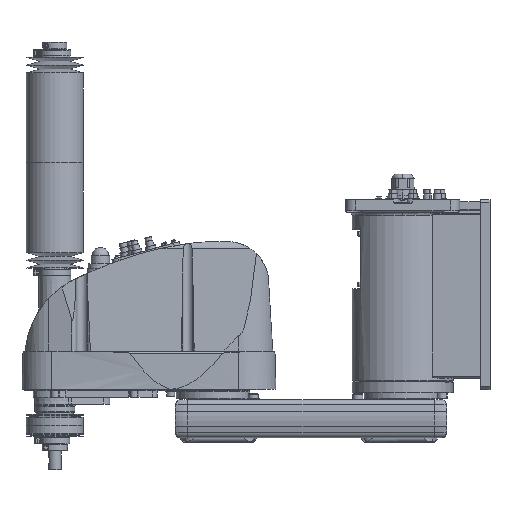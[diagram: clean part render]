
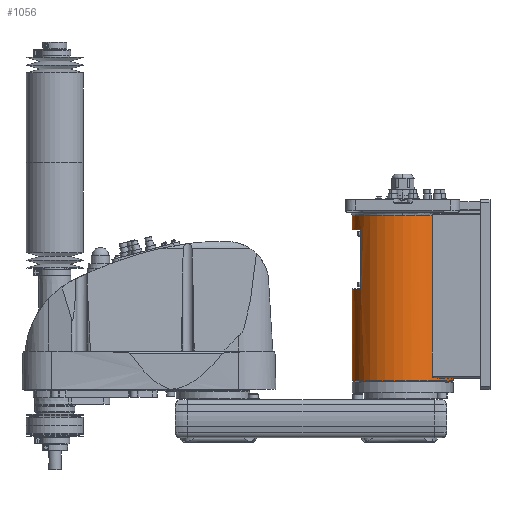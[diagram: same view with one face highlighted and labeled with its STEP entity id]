
A CAD part, top view. The second image highlights one B-rep face of the part: STEP entity #1056.
In plain terms, the highlighted cylindrical face has radius 80 mm (diameter 160 mm), a partial arc.
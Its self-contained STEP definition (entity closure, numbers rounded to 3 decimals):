
#1056 = ADVANCED_FACE( '', ( #3644 ), #3645, .T. );
#3644 = FACE_OUTER_BOUND( '', #7591, .T. );
#3645 = CYLINDRICAL_SURFACE( '', #7592, 80. );
#7591 = EDGE_LOOP( '', ( #15244, #15245, #15246, #15247, #15248, #15249, #15250, #15251, #15252, #15253, #15254, #15255 ) );
#7592 = AXIS2_PLACEMENT_3D( '', #15256, #15257, #15258 );
#15244 = ORIENTED_EDGE( '', *, *, #24562, .T. );
#15245 = ORIENTED_EDGE( '', *, *, #26037, .T. );
#15246 = ORIENTED_EDGE( '', *, *, #26034, .T. );
#15247 = ORIENTED_EDGE( '', *, *, #26031, .T. );
#15248 = ORIENTED_EDGE( '', *, *, #24613, .F. );
#15249 = ORIENTED_EDGE( '', *, *, #24619, .F. );
#15250 = ORIENTED_EDGE( '', *, *, #24568, .T. );
#15251 = ORIENTED_EDGE( '', *, *, #25849, .T. );
#15252 = ORIENTED_EDGE( '', *, *, #25851, .T. );
#15253 = ORIENTED_EDGE( '', *, *, #25852, .T. );
#15254 = ORIENTED_EDGE( '', *, *, #24564, .T. );
#15255 = ORIENTED_EDGE( '', *, *, #26152, .T. );
#15256 = CARTESIAN_POINT( '', ( 0., 160.75, 0. ) );
#15257 = DIRECTION( '', ( 0., -1., 0. ) );
#15258 = DIRECTION( '', ( 1., 0., 0. ) );
#24562 = EDGE_CURVE( '', #29024, #29025, #29026, .T. );
#24564 = EDGE_CURVE( '', #29029, #29027, #29030, .T. );
#24568 = EDGE_CURVE( '', #29037, #29035, #29038, .T. );
#24613 = EDGE_CURVE( '', #29123, #29125, #29126, .T. );
#24619 = EDGE_CURVE( '', #29037, #29123, #29136, .T. );
#25849 = EDGE_CURVE( '', #29035, #31171, #31173, .T. );
#25851 = EDGE_CURVE( '', #31171, #31174, #31176, .T. );
#25852 = EDGE_CURVE( '', #31174, #29029, #31177, .T. );
#26031 = EDGE_CURVE( '', #31462, #29125, #31463, .T. );
#26034 = EDGE_CURVE( '', #31466, #31462, #31467, .T. );
#26037 = EDGE_CURVE( '', #29025, #31466, #31470, .T. );
#26152 = EDGE_CURVE( '', #29027, #29024, #31644, .T. );
#29024 = VERTEX_POINT( '', #36356 );
#29025 = VERTEX_POINT( '', #36357 );
#29026 = LINE( '', #36358, #36359 );
#29027 = VERTEX_POINT( '', #36360 );
#29029 = VERTEX_POINT( '', #36362 );
#29030 = LINE( '', #36363, #36364 );
#29035 = VERTEX_POINT( '', #36370 );
#29037 = VERTEX_POINT( '', #36372 );
#29038 = LINE( '', #36373, #36374 );
#29123 = VERTEX_POINT( '', #36495 );
#29125 = VERTEX_POINT( '', #36497 );
#29126 = CIRCLE( '', #36498, 80. );
#29136 = CIRCLE( '', #36545, 80. );
#31171 = VERTEX_POINT( '', #39404 );
#31173 = CIRCLE( '', #39407, 80. );
#31174 = VERTEX_POINT( '', #39408 );
#31176 = LINE( '', #39411, #39412 );
#31177 = CIRCLE( '', #39413, 80. );
#31462 = VERTEX_POINT( '', #39891 );
#31463 = LINE( '', #39892, #39893 );
#31466 = VERTEX_POINT( '', #39898 );
#31467 = B_SPLINE_CURVE_WITH_KNOTS( '', 3, ( #39899, #39900, #39901, #39902, #39903, #39904, #39905, #39906, #39907, #39908, #39909, #39910, #39911, #39912, #39913, #39914 ), .UNSPECIFIED., .F., .F., ( 4, 2, 2, 2, 2, 2, 2, 4 ), ( -6.06, -5.11, -4.16, -2.26, -1.695, -1.13, -0.565, 0. ), .UNSPECIFIED. );
#31470 = CIRCLE( '', #39919, 80. );
#31644 = CIRCLE( '', #40294, 80. );
#36356 = CARTESIAN_POINT( '', ( 80., 30., 0. ) );
#36357 = CARTESIAN_POINT( '', ( 80., 34.5, 0. ) );
#36358 = CARTESIAN_POINT( '', ( 80., 160.75, 0. ) );
#36359 = VECTOR( '', #50328, 1. );
#36360 = CARTESIAN_POINT( '', ( -80., 30., 0. ) );
#36362 = CARTESIAN_POINT( '', ( -80., 176., 0. ) );
#36363 = CARTESIAN_POINT( '', ( -80., 160.75, 0. ) );
#36364 = VECTOR( '', #50332, 1. );
#36370 = CARTESIAN_POINT( '', ( -80., 269., 0. ) );
#36372 = CARTESIAN_POINT( '', ( -80., 291.5, 0. ) );
#36373 = CARTESIAN_POINT( '', ( -80., 160.75, 0. ) );
#36374 = VECTOR( '', #50340, 1. );
#36495 = CARTESIAN_POINT( '', ( 0., 291.5, 80. ) );
#36497 = CARTESIAN_POINT( '', ( 46.637, 291.5, 65. ) );
#36498 = AXIS2_PLACEMENT_3D( '', #50428, #50429, #50430 );
#36545 = AXIS2_PLACEMENT_3D( '', #50437, #50438, #50439 );
#39404 = CARTESIAN_POINT( '', ( -66., 269., 45.211 ) );
#39407 = AXIS2_PLACEMENT_3D( '', #52569, #52570, #52571 );
#39408 = CARTESIAN_POINT( '', ( -66., 176., 45.211 ) );
#39411 = CARTESIAN_POINT( '', ( -66., 222.5, 45.211 ) );
#39412 = VECTOR( '', #52573, 1. );
#39413 = AXIS2_PLACEMENT_3D( '', #52574, #52575, #52576 );
#39891 = CARTESIAN_POINT( '', ( 46.637, 37.5, 65. ) );
#39892 = CARTESIAN_POINT( '', ( 46.637, 164.5, 65. ) );
#39893 = VECTOR( '', #52817, 1. );
#39898 = CARTESIAN_POINT( '', ( 50.557, 34.5, 62. ) );
#39899 = CARTESIAN_POINT( '', ( 50.557, 34.5, 62. ) );
#39900 = CARTESIAN_POINT( '', ( 50.312, 34.5, 62.2 ) );
#39901 = CARTESIAN_POINT( '', ( 50.054, 34.52, 62.407 ) );
#39902 = CARTESIAN_POINT( '', ( 49.533, 34.607, 62.822 ) );
#39903 = CARTESIAN_POINT( '', ( 49.269, 34.674, 63.029 ) );
#39904 = CARTESIAN_POINT( '', ( 48.491, 34.945, 63.632 ) );
#39905 = CARTESIAN_POINT( '', ( 47.991, 35.221, 64.009 ) );
#39906 = CARTESIAN_POINT( '', ( 47.455, 35.701, 64.405 ) );
#39907 = CARTESIAN_POINT( '', ( 47.333, 35.827, 64.495 ) );
#39908 = CARTESIAN_POINT( '', ( 47.106, 36.105, 64.661 ) );
#39909 = CARTESIAN_POINT( '', ( 47.002, 36.258, 64.736 ) );
#39910 = CARTESIAN_POINT( '', ( 46.828, 36.585, 64.863 ) );
#39911 = CARTESIAN_POINT( '', ( 46.758, 36.761, 64.913 ) );
#39912 = CARTESIAN_POINT( '', ( 46.662, 37.124, 64.982 ) );
#39913 = CARTESIAN_POINT( '', ( 46.637, 37.312, 65. ) );
#39914 = CARTESIAN_POINT( '', ( 46.637, 37.5, 65. ) );
#39919 = AXIS2_PLACEMENT_3D( '', #52822, #52823, #52824 );
#40294 = AXIS2_PLACEMENT_3D( '', #53004, #53005, #53006 );
#50328 = DIRECTION( '', ( 0., 1., 0. ) );
#50332 = DIRECTION( '', ( 0., -1., 0. ) );
#50340 = DIRECTION( '', ( 0., -1., 0. ) );
#50428 = CARTESIAN_POINT( '', ( 0., 291.5, 0. ) );
#50429 = DIRECTION( '', ( 0., 1., 0. ) );
#50430 = DIRECTION( '', ( 1., 0., 0. ) );
#50437 = CARTESIAN_POINT( '', ( 0., 291.5, 0. ) );
#50438 = DIRECTION( '', ( 0., 1., 0. ) );
#50439 = DIRECTION( '', ( 1., 0., 0. ) );
#52569 = CARTESIAN_POINT( '', ( 0., 269., 0. ) );
#52570 = DIRECTION( '', ( 0., 1., 0. ) );
#52571 = DIRECTION( '', ( 1., 0., 0. ) );
#52573 = DIRECTION( '', ( 0., -1., 0. ) );
#52574 = CARTESIAN_POINT( '', ( 0., 176., 0. ) );
#52575 = DIRECTION( '', ( 0., -1., 0. ) );
#52576 = DIRECTION( '', ( 1., 0., 0. ) );
#52817 = DIRECTION( '', ( 0., 1., 0. ) );
#52822 = CARTESIAN_POINT( '', ( 0., 34.5, 0. ) );
#52823 = DIRECTION( '', ( 0., -1., 0. ) );
#52824 = DIRECTION( '', ( 1., 0., 0. ) );
#53004 = CARTESIAN_POINT( '', ( 0., 30., 0. ) );
#53005 = DIRECTION( '', ( 0., 1., 0. ) );
#53006 = DIRECTION( '', ( 1., 0., 0. ) );
